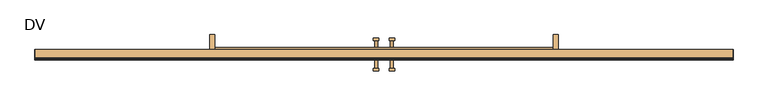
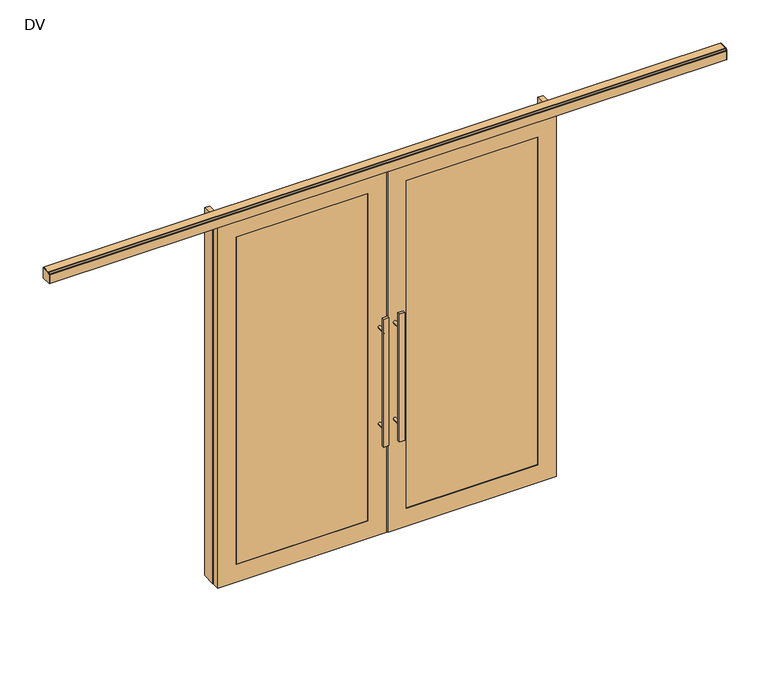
"""IFC4 building model written with IfcOpenShell, lengths in millimetres: door geometry, Mobiliário_Mobiliário de Escritório_Porta Dupla de Correr Vidro Duplo - DV_Marelli : DV."""

from ifc_helpers import new_model, si_unit, point, frame, frame_2d, origin, origin_with_axes, place, context, project, spatial, polyline, circle_curve, trimmed, segment, composite_curve, outline, extrude, source, transform, mapped, element, save


def dv_93a55587(model_context):
    return source(origin(), model_context, "Body", "SweptSolid", [
        extrude(outline(polyline([(348.5735443, -15.0), (378.5735443, -15.0), (378.5735443, -100.0), (348.5735443, -100.0), (348.5735443, -15.0)])), origin_with_axes(), (0.0, 0.0, 1.0), 2300.0),
        extrude(outline(polyline([(2348.5735443, -15.0), (2348.5735443, -100.0), (2318.5735443, -100.0), (2318.5735443, -15.0), (2348.5735443, -15.0)])), origin_with_axes(), (0.0, 0.0, 1.0), 2300.0),
        extrude(outline(polyline([(1287.4735443, -223.7), (1287.4735443, -208.7), (1317.4735443, -208.7), (1317.4735443, -223.7), (1287.4735443, -223.7)])), frame((0.0, 0.0, 600.0), z_axis=(0.0, 0.0, 1.0), x_axis=(1.0, 0.0, 0.0)), (0.0, 0.0, 1.0), 800.0),
        extrude(outline(composite_curve([segment(trimmed(circle_curve(frame_2d((698.0, 1303.6014077)), 8.0), [point((698.0, 1295.6014077))], [point((698.0, 1311.6014077))], False, "CARTESIAN"), True, "CONTINUOUS"), segment(trimmed(circle_curve(frame_2d((698.0, 1303.6014077)), 8.0), [point((698.0, 1311.6014077))], [point((698.0, 1295.6014077))], False, "CARTESIAN"), True, "CONTINUOUS")], self_intersect=False)), frame((0.0, -208.7, 0.0), z_axis=(0.0, 1.0, 0.0), x_axis=(0.0, 0.0, 1.0)), (0.0, 0.0, 1.0), 58.7),
        extrude(outline(composite_curve([segment(trimmed(circle_curve(frame_2d((1302.0, 1303.6014077)), 8.0), [point((1302.0, 1295.6014077))], [point((1302.0, 1311.6014077))], False, "CARTESIAN"), True, "CONTINUOUS"), segment(trimmed(circle_curve(frame_2d((1302.0, 1303.6014077)), 8.0), [point((1302.0, 1311.6014077))], [point((1302.0, 1295.6014077))], False, "CARTESIAN"), True, "CONTINUOUS")], self_intersect=False)), frame((0.0, -208.7, 0.0), z_axis=(0.0, 1.0, 0.0), x_axis=(0.0, 0.0, 1.0)), (0.0, 0.0, 1.0), 58.7),
        extrude(outline(polyline([(1287.4735443, -34.3), (1317.4735443, -34.3), (1317.4735443, -49.3), (1287.4735443, -49.3), (1287.4735443, -34.3)])), frame((0.0, 0.0, 600.0), z_axis=(0.0, 0.0, 1.0), x_axis=(1.0, 0.0, 0.0)), (0.0, 0.0, 1.0), 800.0),
        extrude(outline(composite_curve([segment(trimmed(circle_curve(frame_2d((698.0, 1303.6014077)), 8.0), [point((698.0, 1295.6014077))], [point((698.0, 1311.6014077))], False, "CARTESIAN"), True, "CONTINUOUS"), segment(trimmed(circle_curve(frame_2d((698.0, 1303.6014077)), 8.0), [point((698.0, 1311.6014077))], [point((698.0, 1295.6014077))], False, "CARTESIAN"), True, "CONTINUOUS")], self_intersect=False)), frame((0.0, -108.0, 0.0), z_axis=(0.0, 1.0, 0.0), x_axis=(0.0, 0.0, 1.0)), (0.0, 0.0, 1.0), 58.7),
        extrude(outline(composite_curve([segment(trimmed(circle_curve(frame_2d((1302.0, 1303.6014077)), 8.0), [point((1302.0, 1295.6014077))], [point((1302.0, 1311.6014077))], False, "CARTESIAN"), True, "CONTINUOUS"), segment(trimmed(circle_curve(frame_2d((1302.0, 1303.6014077)), 8.0), [point((1302.0, 1311.6014077))], [point((1302.0, 1295.6014077))], False, "CARTESIAN"), True, "CONTINUOUS")], self_intersect=False)), frame((0.0, -108.0, 0.0), z_axis=(0.0, 1.0, 0.0), x_axis=(0.0, 0.0, 1.0)), (0.0, 0.0, 1.0), 58.7),
        extrude(outline(polyline([(1409.6735443, -223.7), (1379.6735443, -223.7), (1379.6735443, -208.7), (1409.6735443, -208.7), (1409.6735443, -223.7)])), frame((0.0, 0.0, 600.0), z_axis=(0.0, 0.0, 1.0), x_axis=(1.0, 0.0, 0.0)), (0.0, 0.0, 1.0), 800.0),
        extrude(outline(composite_curve([segment(trimmed(circle_curve(frame_2d((698.0, 1393.545681)), 8.0), [point((698.0, 1401.545681))], [point((698.0, 1385.545681))], False, "CARTESIAN"), True, "CONTINUOUS"), segment(trimmed(circle_curve(frame_2d((698.0, 1393.545681)), 8.0), [point((698.0, 1385.545681))], [point((698.0, 1401.545681))], False, "CARTESIAN"), True, "CONTINUOUS")], self_intersect=False)), frame((0.0, -208.7, 0.0), z_axis=(0.0, 1.0, 0.0), x_axis=(0.0, 0.0, 1.0)), (0.0, 0.0, 1.0), 58.7),
        extrude(outline(composite_curve([segment(trimmed(circle_curve(frame_2d((1302.0, 1393.545681)), 8.0), [point((1302.0, 1401.545681))], [point((1302.0, 1385.545681))], False, "CARTESIAN"), True, "CONTINUOUS"), segment(trimmed(circle_curve(frame_2d((1302.0, 1393.545681)), 8.0), [point((1302.0, 1385.545681))], [point((1302.0, 1401.545681))], False, "CARTESIAN"), True, "CONTINUOUS")], self_intersect=False)), frame((0.0, -208.7, 0.0), z_axis=(0.0, 1.0, 0.0), x_axis=(0.0, 0.0, 1.0)), (0.0, 0.0, 1.0), 58.7),
        extrude(outline(polyline([(1409.6735443, -34.3), (1409.6735443, -49.3), (1379.6735443, -49.3), (1379.6735443, -34.3), (1409.6735443, -34.3)])), frame((0.0, 0.0, 600.0), z_axis=(0.0, 0.0, 1.0), x_axis=(1.0, 0.0, 0.0)), (0.0, 0.0, 1.0), 800.0),
        extrude(outline(composite_curve([segment(trimmed(circle_curve(frame_2d((698.0, 1393.545681)), 8.0), [point((698.0, 1401.545681))], [point((698.0, 1385.545681))], False, "CARTESIAN"), True, "CONTINUOUS"), segment(trimmed(circle_curve(frame_2d((698.0, 1393.545681)), 8.0), [point((698.0, 1385.545681))], [point((698.0, 1401.545681))], False, "CARTESIAN"), True, "CONTINUOUS")], self_intersect=False)), frame((0.0, -108.0, 0.0), z_axis=(0.0, 1.0, 0.0), x_axis=(0.0, 0.0, 1.0)), (0.0, 0.0, 1.0), 58.7),
        extrude(outline(composite_curve([segment(trimmed(circle_curve(frame_2d((1302.0, 1393.545681)), 8.0), [point((1302.0, 1401.545681))], [point((1302.0, 1385.545681))], False, "CARTESIAN"), True, "CONTINUOUS"), segment(trimmed(circle_curve(frame_2d((1302.0, 1393.545681)), 8.0), [point((1302.0, 1385.545681))], [point((1302.0, 1401.545681))], False, "CARTESIAN"), True, "CONTINUOUS")], self_intersect=False)), frame((0.0, -108.0, 0.0), z_axis=(0.0, 1.0, 0.0), x_axis=(0.0, 0.0, 1.0)), (0.0, 0.0, 1.0), 58.7),
        extrude(outline(polyline([(2270.0, 348.5735443), (2.0, 348.5735443), (2.0, 1345.5735443), (2270.0, 1345.5735443), (2270.0, 348.5735443)]), holes=[polyline([(2160.0, 1235.5735443), (112.0, 1235.5735443), (112.0, 458.5735443), (2160.0, 458.5735443), (2160.0, 1235.5735443)])]), frame((0.0, -150.0, 0.0), z_axis=(0.0, 1.0, 0.0), x_axis=(0.0, 0.0, 1.0)), (0.0, 0.0, 1.0), 42.0),
        extrude(outline(polyline([(2270.0, 1351.5735443), (2.0, 1351.5735443), (2.0, 2348.5735443), (2270.0, 2348.5735443), (2270.0, 1351.5735443)]), holes=[polyline([(2160.0, 2238.5735443), (112.0, 2238.5735443), (112.0, 1461.5735443), (2160.0, 1461.5735443), (2160.0, 2238.5735443)])]), frame((0.0, -150.0, 0.0), z_axis=(0.0, 1.0, 0.0), x_axis=(0.0, 0.0, 1.0)), (0.0, 0.0, 1.0), 42.0),
        extrude(outline(polyline([(1235.5735443, -141.5), (1235.5735443, -147.5), (458.5735443, -147.5), (458.5735443, -141.5), (1235.5735443, -141.5)])), frame((0.0, 0.0, 112.0), z_axis=(0.0, 0.0, 1.0), x_axis=(1.0, 0.0, 0.0)), (0.0, 0.0, 1.0), 2048.0),
        extrude(outline(polyline([(1235.5735443, -116.5), (458.5735443, -116.5), (458.5735443, -110.5), (1235.5735443, -110.5), (1235.5735443, -116.5)])), frame((0.0, 0.0, 112.0), z_axis=(0.0, 0.0, 1.0), x_axis=(1.0, 0.0, 0.0)), (0.0, 0.0, 1.0), 2048.0),
        extrude(outline(polyline([(1461.5735443, -141.5), (2238.5735443, -141.5), (2238.5735443, -147.5), (1461.5735443, -147.5), (1461.5735443, -141.5)])), frame((0.0, 0.0, 112.0), z_axis=(0.0, 0.0, 1.0), x_axis=(1.0, 0.0, 0.0)), (0.0, 0.0, 1.0), 2048.0),
        extrude(outline(polyline([(1461.5735443, -116.5), (1461.5735443, -110.5), (2238.5735443, -110.5), (2238.5735443, -116.5), (1461.5735443, -116.5)])), frame((0.0, 0.0, 112.0), z_axis=(0.0, 0.0, 1.0), x_axis=(1.0, 0.0, 0.0)), (0.0, 0.0, 1.0), 2048.0),
        extrude(outline(polyline([(2318.5735443, -90.0), (2318.5735443, -100.0), (378.5735443, -100.0), (378.5735443, -90.0), (2318.5735443, -90.0)])), frame((0.0, 0.0, 2270.0), z_axis=(0.0, 0.0, 1.0), x_axis=(1.0, 0.0, 0.0)), (0.0, 0.0, 1.0), 30.0),
        extrude(outline(composite_curve([segment(polyline([(-100.0, 2280.0), (-103.7, 2280.0), (-103.7, 2288.4), (-118.3, 2288.4), (-118.3, 2316.9), (-142.2, 2316.9), (-142.2, 2288.4), (-156.1, 2288.4), (-156.1, 2264.2), (-161.3, 2264.2), (-161.3, 2316.3833057)]), True, "CONTINUOUS"), segment(trimmed(circle_curve(frame_2d((-154.7488615, 2316.4864296)), 6.5519502), [point((-161.3, 2316.3833057))], [point((-159.3082964, 2321.1917036))], False, "CARTESIAN"), True, "CONTINUOUS"), segment(polyline([(-159.3082964, 2321.1917036), (-153.2917036, 2327.2082964)]), True, "CONTINUOUS"), segment(trimmed(circle_curve(frame_2d((-148.5864296, 2322.6488615)), 6.5519502), [point((-153.2917036, 2327.2082964))], [point((-148.4833057, 2329.2))], False, "CARTESIAN"), True, "CONTINUOUS"), segment(polyline([(-148.4833057, 2329.2), (-100.0, 2329.2), (-100.0, 2280.0)]), True, "CONTINUOUS")], self_intersect=False)), frame((-651.4264557, 0.0, 0.0), z_axis=(1.0, 0.0, 0.0), x_axis=(0.0, 1.0, 0.0)), (0.0, 0.0, 1.0), 4000.0),
        extrude(outline(composite_curve([segment(polyline([(-100.0, 2264.2), (-161.3, 2264.2), (-161.3, 2316.3833057)]), True, "CONTINUOUS"), segment(trimmed(circle_curve(frame_2d((-154.7488615, 2316.4864296)), 6.5519502), [point((-161.3, 2316.3833057))], [point((-159.3082964, 2321.1917036))], False, "CARTESIAN"), True, "CONTINUOUS"), segment(polyline([(-159.3082964, 2321.1917036), (-153.2917036, 2327.2082964)]), True, "CONTINUOUS"), segment(trimmed(circle_curve(frame_2d((-148.5864296, 2322.6488615)), 6.5519502), [point((-153.2917036, 2327.2082964))], [point((-148.4833057, 2329.2))], False, "CARTESIAN"), True, "CONTINUOUS"), segment(polyline([(-148.4833057, 2329.2), (-100.0, 2329.2), (-100.0, 2264.2)]), True, "CONTINUOUS")], self_intersect=False)), frame((-654.4264557, 0.0, 0.0), z_axis=(1.0, 0.0, 0.0), x_axis=(0.0, 1.0, 0.0)), (0.0, 0.0, 1.0), 3.0),
        extrude(outline(composite_curve([segment(polyline([(-100.0, 2264.2), (-161.3, 2264.2), (-161.3, 2316.3833057)]), True, "CONTINUOUS"), segment(trimmed(circle_curve(frame_2d((-154.7488615, 2316.4864296)), 6.5519502), [point((-161.3, 2316.3833057))], [point((-159.3082964, 2321.1917036))], False, "CARTESIAN"), True, "CONTINUOUS"), segment(polyline([(-159.3082964, 2321.1917036), (-153.2917036, 2327.2082964)]), True, "CONTINUOUS"), segment(trimmed(circle_curve(frame_2d((-148.5864296, 2322.6488615)), 6.5519502), [point((-153.2917036, 2327.2082964))], [point((-148.4833057, 2329.2))], False, "CARTESIAN"), True, "CONTINUOUS"), segment(polyline([(-148.4833057, 2329.2), (-100.0, 2329.2), (-100.0, 2264.2)]), True, "CONTINUOUS")], self_intersect=False)), frame((3348.5735443, 0.0, 0.0), z_axis=(1.0, 0.0, 0.0), x_axis=(0.0, 1.0, 0.0)), (0.0, 0.0, 1.0), 3.0),
    ])


if __name__ == "__main__":
    model = new_model("IFC4")
    model_context = context("Model", 3, world=origin())
    ifc_project = project(units=[si_unit("LENGTHUNIT", "METRE", prefix="MILLI")], contexts=[model_context])
    site = spatial("IfcSite", under=ifc_project)
    building = spatial("IfcBuilding", under=site)
    placement = place(None, origin())
    dv_shape = dv_93a55587(model_context)
    element("IfcDoor", 1, ObjectType="Mobiliário_Mobiliário de Escritório_Porta Dupla de Correr Vidro Duplo - DV_Marelli : DV", at=placement, inside=building, context=model_context, shape_type="MappedRepresentation", body=[
        mapped(dv_shape, transform((0.0, 0.0, 0.0), x_axis=(1.0, 0.0, 0.0), y_axis=(0.0, 1.0, 0.0), z_axis=(0.0, 0.0, 1.0))),
    ])
    save(model, "model.ifc")
